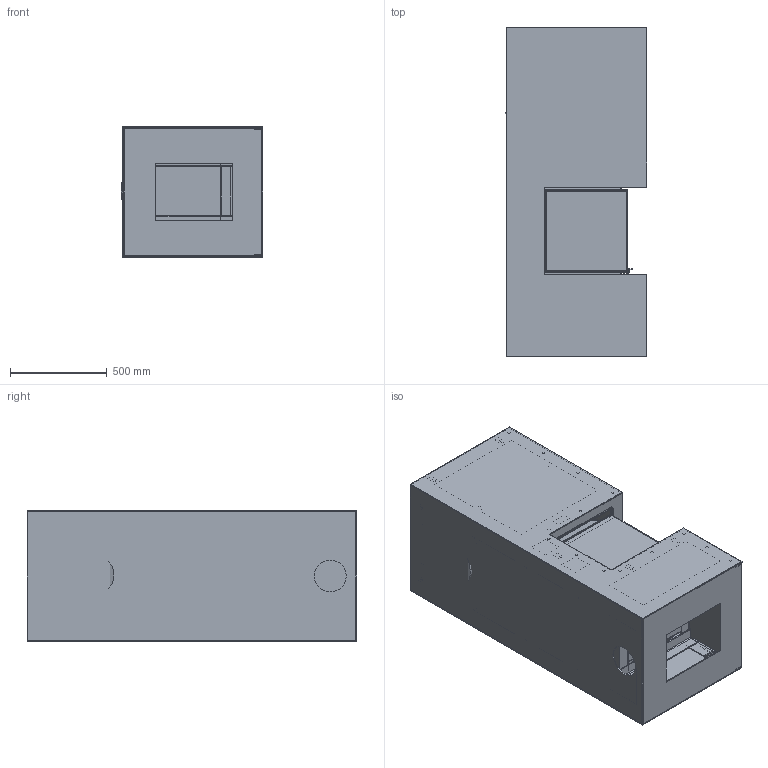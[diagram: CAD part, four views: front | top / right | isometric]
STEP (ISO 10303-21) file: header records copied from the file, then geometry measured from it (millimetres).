
FILE_DESCRIPTION(/* description */ (''),/* implementation_level */ '2;1');
FILE_NAME(/* name */ 'C:\Users\RHU\Desktop\Celtis.stp',/* time_stamp */ '2020-02-12T11:15:21+01:00',/* author */ ('RHU'),/* organization */ (''),/* preprocessor_version */ 'ST-DEVELOPER v17.2',/* originating_system */ 'Autodesk Inventor 2019',/* authorisation */ '');
FILE_SCHEMA (('AUTOMOTIVE_DESIGN { 1 0 10303 214 3 1 1 }'));
Products named in the file (16): 2020-00354; 2018-03213; 2018-03216; 2018-03217; 2018-03221; 2018-03222; 2018-03223; 2018-03224; 2018-03225; 2017-01007; 2017-01006; 2017-01004; 2017-01002; 2017-01000; 120-050; 2019-03460
Assembly tree (18 placements, depth 3):
  2020-00354
    2018-03213
    2018-03216
    2018-03217
    2018-03221
    2018-03222
    2018-03223
    2018-03224
    2018-03225
    2017-01007
      2017-01006
      2017-01004
      2017-01002
      2017-01000
      120-050  x4
      2019-03460
Bounding box: 733 x 1705 x 675 mm (x, y, z)
Volume: 77010910.6 mm3; surface area: 26235277.2 mm2
Topology: 29 solids, 42 shells, 4701 faces, 13004 edges, 8326 vertices
Faces by surface type: plane 2834, cylinder 1554, cone 173, bspline 134, torus 6
Full cylindrical faces by diameter (mm): 6 x2, 6.6 x28, 8 x4, 10 x4, 16 x8, 30 x8, 165 x1, 198 x2, 204 x1, 333 x1, 339 x1
Entity records: 153927 total; most frequent: CARTESIAN_POINT 32364, ORIENTED_EDGE 25280, DIRECTION 24312, EDGE_CURVE 12691, LINE 8722, VECTOR 8722, VERTEX_POINT 8109, AXIS2_PLACEMENT_3D 7795
